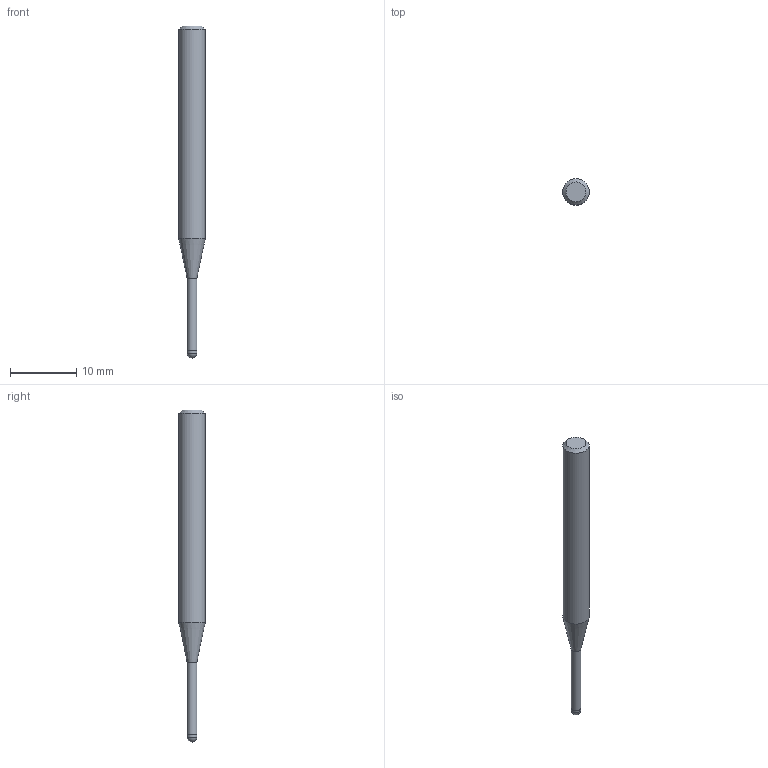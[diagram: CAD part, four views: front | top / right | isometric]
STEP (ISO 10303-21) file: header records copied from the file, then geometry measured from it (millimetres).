
FILE_DESCRIPTION((''),'2;1');
FILE_NAME('C:\Users\nsx150\AppData\Local\Temp\Mastercam 2021\ZXBT0ST9RL\TEMP.step','2021-06-25T11:03:02',(''),(''),'STEP Write','Mastercam 2021 ... CNC Software, Inc.','');
FILE_SCHEMA(('AUTOMOTIVE_DESIGN'));
Length unit declared in the file: millimetre
Products named in the file (1): None
Bounding box: 4 x 4 x 50 mm (x, y, z)
Volume: 457.7 mm3; surface area: 521.5 mm2
Topology: 2 solids, 2 shells, 9 faces, 14 edges, 8 vertices
Faces by surface type: plane 3, cylinder 3, cone 2, sphere 1
Full cylindrical faces by diameter (mm): 1.45 x1, 1.5 x1, 4 x1
Entity records: 211 total; most frequent: DIRECTION 36, CARTESIAN_POINT 25, AXIS2_PLACEMENT_3D 18, ORIENTED_EDGE 14, EDGE_LOOP 14, STYLED_ITEM 12, ADVANCED_FACE 9, FACE_BOUND 8
